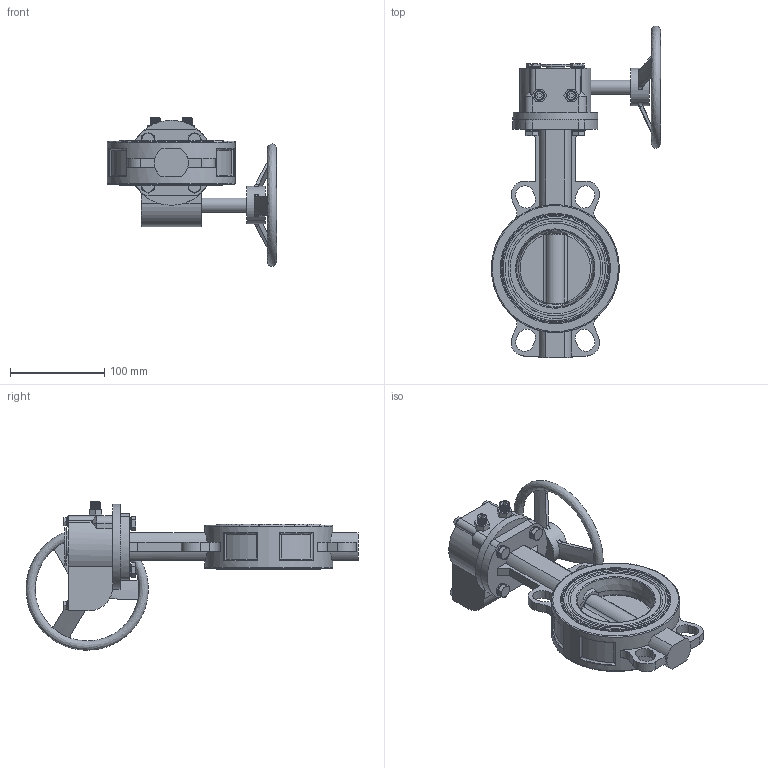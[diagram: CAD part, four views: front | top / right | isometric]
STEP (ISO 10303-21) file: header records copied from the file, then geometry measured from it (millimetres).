
FILE_DESCRIPTION (( 'STEP AP214' ), '1' );
FILE_NAME ('恦謫 勤標評概Fig.3230-16-80.STEP', '2026-03-23T03:46:40', ( '' ), ( '' ), 'SwSTEP 2.0', 'SolidWorks 2024', '' );
FILE_SCHEMA (( 'AUTOMOTIVE_DESIGN' ));
Length unit declared in the file: millimetre
Products named in the file (1): 涡轮 对夹蝶阀Fig.3230-16-80
Bounding box: 180 x 352.99 x 157.65 mm (x, y, z)
Surface area: 161365.7 mm2 (no closed solid volume)
Topology: 0 solids, 1 shells, 634 faces, 1611 edges, 1048 vertices
Faces by surface type: plane 322, bspline 161, cylinder 109, cone 42
Full cylindrical faces by diameter (mm): 6 x4, 8 x4, 8.68 x4, 10 x10, 12.75 x1, 13.68 x4, 15 x1, 20 x1, 40 x2, 50 x1, 90.02 x1, 136 x1
Entity records: 40769 total; most frequent: CARTESIAN_POINT 22098, ORIENTED_EDGE 3088, DIRECTION 2271, EDGE_CURVE 1548, VERTEX_POINT 1031, LINE 777, VECTOR 777, EDGE_LOOP 777
